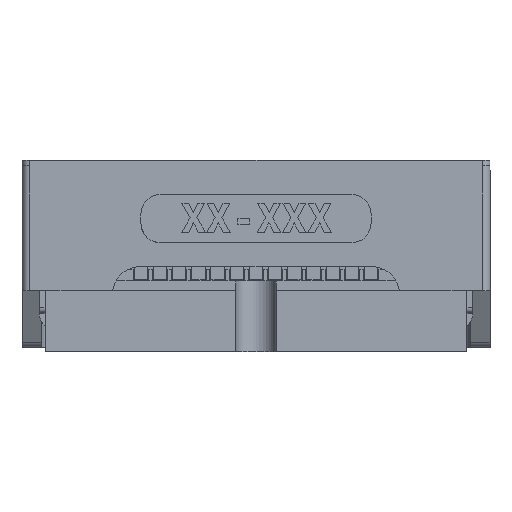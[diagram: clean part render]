
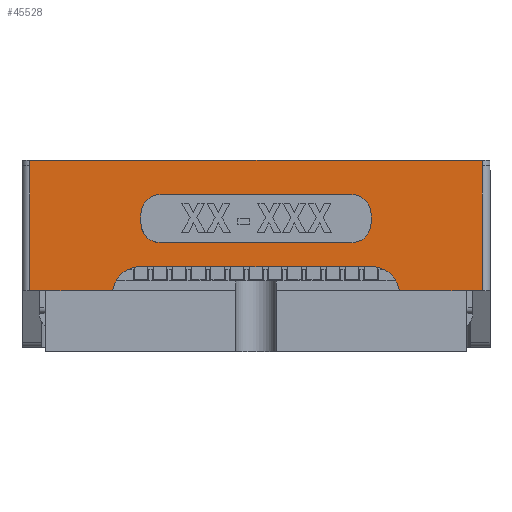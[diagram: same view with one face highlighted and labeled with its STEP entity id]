
A CAD part, left-side view. The second image highlights one B-rep face of the part: STEP entity #45528.
In plain terms, the highlighted planar face has unit normal (-1, 0, 0).
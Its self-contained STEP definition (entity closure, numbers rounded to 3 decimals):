
#44848=AXIS2_PLACEMENT_3D('Circle Axis2P3D',#44846,#44847,$) ;
#44905=AXIS2_PLACEMENT_3D('Circle Axis2P3D',#44903,#44904,$) ;
#45325=AXIS2_PLACEMENT_3D('Circle Axis2P3D',#45323,#45324,$) ;
#45357=AXIS2_PLACEMENT_3D('Circle Axis2P3D',#45355,#45356,$) ;
#45395=AXIS2_PLACEMENT_3D('Circle Axis2P3D',#45393,#45394,$) ;
#45466=AXIS2_PLACEMENT_3D('Plane Axis2P3D',#45463,#45464,#45465) ;
#44761=CARTESIAN_POINT('Vertex',(-12.2,-11.8,7.7)) ;
#44764=CARTESIAN_POINT('Line Origine',(-12.2,-11.8,4.45)) ;
#44768=CARTESIAN_POINT('Vertex',(-12.2,-11.8,1.2)) ;
#44811=CARTESIAN_POINT('Vertex',(-12.2,-7.479,1.2)) ;
#44821=CARTESIAN_POINT('Line Origine',(-12.2,-9.64,1.2)) ;
#44846=CARTESIAN_POINT('Axis2P3D Location',(-12.2,-6.,0.95)) ;
#44850=CARTESIAN_POINT('Vertex',(-12.2,-6.,2.45)) ;
#44878=CARTESIAN_POINT('Line Origine',(-12.2,0.,2.45)) ;
#44882=CARTESIAN_POINT('Vertex',(-12.2,6.,2.45)) ;
#44903=CARTESIAN_POINT('Axis2P3D Location',(-12.2,6.,0.95)) ;
#44907=CARTESIAN_POINT('Vertex',(-12.2,7.479,1.2)) ;
#44935=CARTESIAN_POINT('Line Origine',(-12.2,9.64,1.2)) ;
#44939=CARTESIAN_POINT('Vertex',(-12.2,11.8,1.2)) ;
#44990=CARTESIAN_POINT('Line Origine',(-12.2,11.8,4.45)) ;
#44994=CARTESIAN_POINT('Vertex',(-12.2,11.8,7.7)) ;
#45295=CARTESIAN_POINT('Vertex',(-12.2,-6.,4.7)) ;
#45298=CARTESIAN_POINT('Line Origine',(-12.2,-6.,4.95)) ;
#45302=CARTESIAN_POINT('Vertex',(-12.2,-6.,5.2)) ;
#45323=CARTESIAN_POINT('Axis2P3D Location',(-12.2,-5.,5.2)) ;
#45327=CARTESIAN_POINT('Vertex',(-12.2,-5.,6.2)) ;
#45352=CARTESIAN_POINT('Vertex',(-12.2,-5.,3.7)) ;
#45355=CARTESIAN_POINT('Axis2P3D Location',(-12.2,-5.,4.7)) ;
#45390=CARTESIAN_POINT('Vertex',(-12.2,5.,6.2)) ;
#45393=CARTESIAN_POINT('Axis2P3D Location',(-12.2,5.,5.2)) ;
#45397=CARTESIAN_POINT('Vertex',(-12.2,6.,5.2)) ;
#45447=CARTESIAN_POINT('Vertex',(-12.2,5.,3.7)) ;
#45450=CARTESIAN_POINT('Line Origine',(-12.2,0.,3.7)) ;
#45463=CARTESIAN_POINT('Axis2P3D Location',(-12.2,0.,1.2)) ;
#45468=CARTESIAN_POINT('Line Origine',(-12.2,-11.8,4.45)) ;
#45472=CARTESIAN_POINT('Vertex',(-12.2,-11.8,8.)) ;
#45475=CARTESIAN_POINT('Line Origine',(-12.2,0.,8.)) ;
#45479=CARTESIAN_POINT('Vertex',(-12.2,11.8,8.)) ;
#45482=CARTESIAN_POINT('Line Origine',(-12.2,11.8,4.45)) ;
#45499=CARTESIAN_POINT('Line Origine',(-12.2,0.,6.2)) ;
#45505=CARTESIAN_POINT('Control Point',(-12.2,5.,3.7)) ;
#45506=CARTESIAN_POINT('Control Point',(-12.2,5.393,3.7)) ;
#45507=CARTESIAN_POINT('Control Point',(-12.2,5.79,3.91)) ;
#45508=CARTESIAN_POINT('Control Point',(-12.2,6.,4.307)) ;
#45509=CARTESIAN_POINT('Control Point',(-12.2,6.,4.7)) ;
#45510=CARTESIAN_POINT('Vertex',(-12.2,6.,4.7)) ;
#45513=CARTESIAN_POINT('Line Origine',(-12.2,6.,4.45)) ;
#44765=DIRECTION('Vector Direction',(0.,0.,-1.)) ;
#44822=DIRECTION('Vector Direction',(0.,-1.,0.)) ;
#44847=DIRECTION('Axis2P3D Direction',(1.,0.,0.)) ;
#44879=DIRECTION('Vector Direction',(0.,-1.,0.)) ;
#44904=DIRECTION('Axis2P3D Direction',(1.,0.,0.)) ;
#44936=DIRECTION('Vector Direction',(0.,-1.,0.)) ;
#44991=DIRECTION('Vector Direction',(0.,0.,1.)) ;
#45299=DIRECTION('Vector Direction',(0.,0.,1.)) ;
#45324=DIRECTION('Axis2P3D Direction',(1.,0.,0.)) ;
#45356=DIRECTION('Axis2P3D Direction',(1.,0.,0.)) ;
#45394=DIRECTION('Axis2P3D Direction',(1.,0.,0.)) ;
#45451=DIRECTION('Vector Direction',(0.,-1.,0.)) ;
#45464=DIRECTION('Axis2P3D Direction',(1.,0.,0.)) ;
#45465=DIRECTION('Axis2P3D XDirection',(0.,1.,0.)) ;
#45469=DIRECTION('Vector Direction',(0.,0.,1.)) ;
#45476=DIRECTION('Vector Direction',(0.,1.,0.)) ;
#45483=DIRECTION('Vector Direction',(0.,0.,1.)) ;
#45500=DIRECTION('Vector Direction',(0.,1.,0.)) ;
#45514=DIRECTION('Vector Direction',(0.,0.,1.)) ;
#44766=VECTOR('Line Direction',#44765,1.) ;
#44823=VECTOR('Line Direction',#44822,1.) ;
#44880=VECTOR('Line Direction',#44879,1.) ;
#44937=VECTOR('Line Direction',#44936,1.) ;
#44992=VECTOR('Line Direction',#44991,1.) ;
#45300=VECTOR('Line Direction',#45299,1.) ;
#45452=VECTOR('Line Direction',#45451,1.) ;
#45470=VECTOR('Line Direction',#45469,1.) ;
#45477=VECTOR('Line Direction',#45476,1.) ;
#45484=VECTOR('Line Direction',#45483,1.) ;
#45501=VECTOR('Line Direction',#45500,1.) ;
#45515=VECTOR('Line Direction',#45514,1.) ;
#45488=ORIENTED_EDGE('',*,*,#44941,.T.) ;
#45489=ORIENTED_EDGE('',*,*,#44909,.T.) ;
#45490=ORIENTED_EDGE('',*,*,#44884,.T.) ;
#45491=ORIENTED_EDGE('',*,*,#44852,.T.) ;
#45492=ORIENTED_EDGE('',*,*,#44825,.T.) ;
#45493=ORIENTED_EDGE('',*,*,#44770,.T.) ;
#45494=ORIENTED_EDGE('',*,*,#45474,.T.) ;
#45495=ORIENTED_EDGE('',*,*,#45481,.F.) ;
#45496=ORIENTED_EDGE('',*,*,#45486,.F.) ;
#45497=ORIENTED_EDGE('',*,*,#44996,.F.) ;
#45519=ORIENTED_EDGE('',*,*,#45503,.T.) ;
#45520=ORIENTED_EDGE('',*,*,#45329,.T.) ;
#45521=ORIENTED_EDGE('',*,*,#45304,.F.) ;
#45522=ORIENTED_EDGE('',*,*,#45359,.T.) ;
#45523=ORIENTED_EDGE('',*,*,#45454,.F.) ;
#45524=ORIENTED_EDGE('',*,*,#45512,.T.) ;
#45525=ORIENTED_EDGE('',*,*,#45517,.F.) ;
#45526=ORIENTED_EDGE('',*,*,#45399,.T.) ;
#45527=FACE_BOUND('',#45518,.T.) ;
#45528=ADVANCED_FACE('Hauptk\X2\00F6\X0\rper',(#45498,#45527),#45467,.F.) ;
#45504=B_SPLINE_CURVE_WITH_KNOTS('',4,(#45505,#45506,#45507,#45508,#45509),.UNSPECIFIED.,.F.,.U.,(5,5),(4.712,6.283),.UNSPECIFIED.) ;
#44849=CIRCLE('generated circle',#44848,1.5) ;
#44906=CIRCLE('generated circle',#44905,1.5) ;
#45326=CIRCLE('generated circle',#45325,1.) ;
#45358=CIRCLE('generated circle',#45357,1.) ;
#45396=CIRCLE('generated circle',#45395,1.) ;
#44770=EDGE_CURVE('',#44769,#44762,#44767,.F.) ;
#44825=EDGE_CURVE('',#44812,#44769,#44824,.T.) ;
#44852=EDGE_CURVE('',#44851,#44812,#44849,.T.) ;
#44884=EDGE_CURVE('',#44883,#44851,#44881,.T.) ;
#44909=EDGE_CURVE('',#44908,#44883,#44906,.T.) ;
#44941=EDGE_CURVE('',#44940,#44908,#44938,.T.) ;
#44996=EDGE_CURVE('',#44940,#44995,#44993,.T.) ;
#45304=EDGE_CURVE('',#45296,#45303,#45301,.T.) ;
#45329=EDGE_CURVE('',#45328,#45303,#45326,.T.) ;
#45359=EDGE_CURVE('',#45296,#45353,#45358,.T.) ;
#45399=EDGE_CURVE('',#45398,#45391,#45396,.T.) ;
#45454=EDGE_CURVE('',#45448,#45353,#45453,.T.) ;
#45474=EDGE_CURVE('',#44762,#45473,#45471,.T.) ;
#45481=EDGE_CURVE('',#45480,#45473,#45478,.F.) ;
#45486=EDGE_CURVE('',#44995,#45480,#45485,.T.) ;
#45503=EDGE_CURVE('',#45391,#45328,#45502,.F.) ;
#45512=EDGE_CURVE('',#45448,#45511,#45504,.T.) ;
#45517=EDGE_CURVE('',#45398,#45511,#45516,.F.) ;
#45487=EDGE_LOOP('',(#45488,#45489,#45490,#45491,#45492,#45493,#45494,#45495,#45496,#45497)) ;
#45518=EDGE_LOOP('',(#45519,#45520,#45521,#45522,#45523,#45524,#45525,#45526)) ;
#45498=FACE_OUTER_BOUND('',#45487,.T.) ;
#44767=LINE('Line',#44764,#44766) ;
#44824=LINE('Line',#44821,#44823) ;
#44881=LINE('Line',#44878,#44880) ;
#44938=LINE('Line',#44935,#44937) ;
#44993=LINE('Line',#44990,#44992) ;
#45301=LINE('Line',#45298,#45300) ;
#45453=LINE('Line',#45450,#45452) ;
#45471=LINE('Line',#45468,#45470) ;
#45478=LINE('Line',#45475,#45477) ;
#45485=LINE('Line',#45482,#45484) ;
#45502=LINE('Line',#45499,#45501) ;
#45516=LINE('Line',#45513,#45515) ;
#45467=PLANE('',#45466) ;
#44762=VERTEX_POINT('',#44761) ;
#44769=VERTEX_POINT('',#44768) ;
#44812=VERTEX_POINT('',#44811) ;
#44851=VERTEX_POINT('',#44850) ;
#44883=VERTEX_POINT('',#44882) ;
#44908=VERTEX_POINT('',#44907) ;
#44940=VERTEX_POINT('',#44939) ;
#44995=VERTEX_POINT('',#44994) ;
#45296=VERTEX_POINT('',#45295) ;
#45303=VERTEX_POINT('',#45302) ;
#45328=VERTEX_POINT('',#45327) ;
#45353=VERTEX_POINT('',#45352) ;
#45391=VERTEX_POINT('',#45390) ;
#45398=VERTEX_POINT('',#45397) ;
#45448=VERTEX_POINT('',#45447) ;
#45473=VERTEX_POINT('',#45472) ;
#45480=VERTEX_POINT('',#45479) ;
#45511=VERTEX_POINT('',#45510) ;
